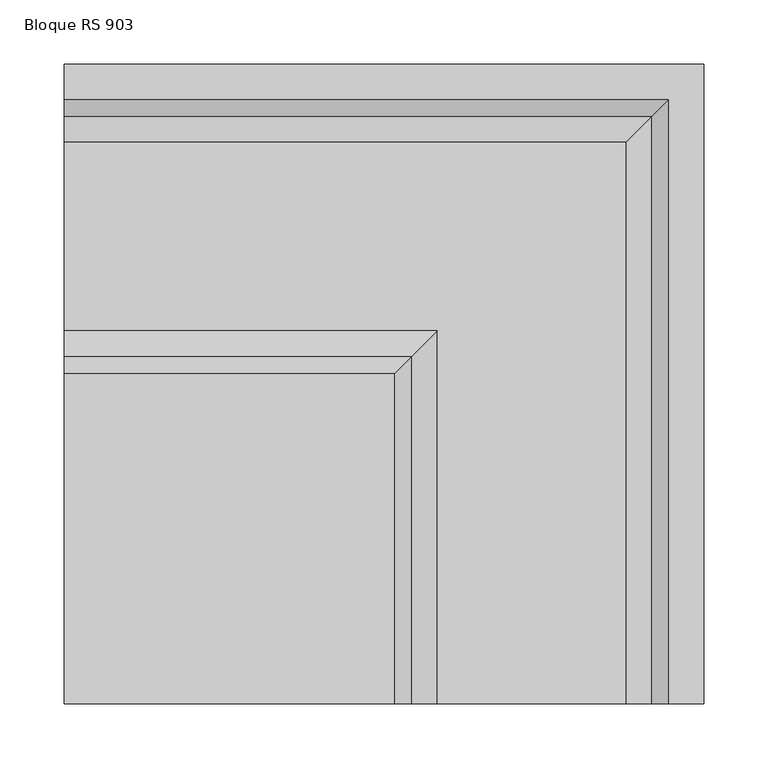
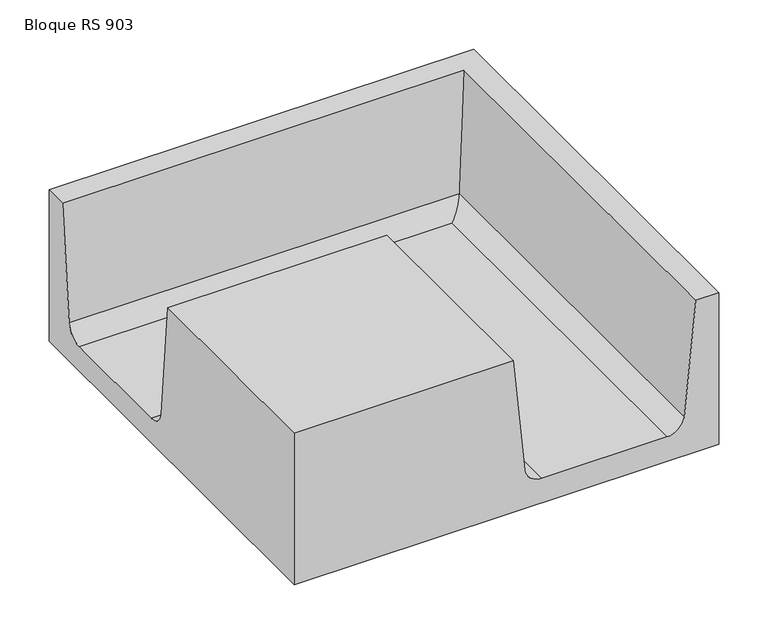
"""IFC4 building model written with IfcOpenShell, lengths in millimetres: proxy geometry, ROSA GRES_RS 903 : Bloque RS 903."""

from ifc_helpers import new_model, si_unit, frame, origin, place, context, project, spatial, polyline, circle_curve, ellipse_curve, source, transform, mapped, element, save
from ifc_brep_helpers import plane_surface, revolved_surface, advanced_brep


def bloque_rs_903_88942921(model_context):
    return source(origin(), model_context, "Body", "AdvancedBrep", [
        advanced_brep(
        [(12.8, 508.8, 188.7539108), (12.8, 508.8, 1.7539108), (12.8, 12.8, 1.7539108), (12.8, 12.8, 188.7539108), (12.8, 268.668625, 188.7539108), (12.8, 282.2046287, 49.1487962), (12.8, 302.2383735, 31.8084896), (12.8, 448.3616265, 31.8084896), (12.8, 468.3953713, 49.1487962), (12.8, 481.931375, 188.7539108), (508.8, 12.8, 188.7539108), (481.931375, 12.8, 188.7539108), (468.3953713, 12.8, 49.1487962), (448.3616265, 12.8, 31.8084896), (302.2383735, 12.8, 31.8084896), (282.2046287, 12.8, 49.1487962), (268.668625, 12.8, 188.7539108), (508.8, 12.8, 1.7539108), (508.8, 508.8, 188.7539108), (508.8, 508.8, 1.7539108), (268.668625, 268.668625, 188.7539108), (282.2046287, 282.2046287, 49.1487962), (302.2383735, 302.2383735, 31.8084896), (448.3616265, 448.3616265, 31.8084896), (468.3953713, 468.3953713, 49.1487962), (481.931375, 481.931375, 188.7539108)],
        [
            (0, 1),
            (1, 2),
            (2, 3),
            (3, 4),
            (4, 5),
            (5, 6, circle_curve(frame((12.8, 301.8469592, 51.599206), z_axis=(1.0, 0.0, 0.0), x_axis=(0.0, 1.0, 0.0)), 19.7945866)),
            (6, 7),
            (7, 8, circle_curve(frame((12.8, 448.7530408, 51.599206), z_axis=(1.0, 0.0, 0.0), x_axis=(0.0, 1.0, 0.0)), 19.7945866)),
            (8, 9),
            (9, 0),
            (10, 11),
            (11, 12),
            (12, 13, circle_curve(frame((448.7530408, 12.8, 51.599206), z_axis=(0.0, 1.0, 0.0), x_axis=(1.0, 0.0, 0.0)), 19.7945866)),
            (13, 14),
            (14, 15, circle_curve(frame((301.8469592, 12.8, 51.599206), z_axis=(0.0, 1.0, 0.0), x_axis=(1.0, 0.0, 0.0)), 19.7945866)),
            (15, 16),
            (16, 3),
            (2, 17),
            (17, 10),
            (0, 18),
            (18, 19),
            (19, 1),
            (19, 17),
            (16, 20),
            (20, 4),
            (20, 21),
            (21, 5),
            (21, 22, ellipse_curve(frame((301.8469592, 301.8469592, 51.599206), z_axis=(0.7071067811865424, -0.7071067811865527, 0.0), x_axis=(0.7071067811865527, 0.7071067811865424, 0.0)), 27.9937728, 19.7945866)),
            (22, 6),
            (22, 14),
            (13, 23),
            (23, 7),
            (23, 24, ellipse_curve(frame((448.7530408, 448.7530408, 51.599206), z_axis=(0.7071067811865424, -0.7071067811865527, 0.0), x_axis=(0.7071067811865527, 0.7071067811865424, 0.0)), 27.9937728, 19.7945866)),
            (24, 8),
            (24, 25),
            (25, 9),
            (25, 11),
            (10, 18),
            (15, 21),
            (12, 24),
        ],
        [
            plane_surface(frame((12.8, 508.8, 0.0), z_axis=(-1.0, 0.0, 0.0), x_axis=(0.0, 0.0, 1.0))),
            plane_surface(frame((508.8, 12.8, 0.0), z_axis=(0.0, -1.0, 0.0), x_axis=(0.0, 0.0, 1.0))),
            plane_surface(frame((12.8, 508.8, 188.7539108), z_axis=(0.0, 1.0, 0.0), x_axis=(1.0, 0.0, 0.0))),
            plane_surface(frame((12.8, 508.8, 1.7539108), z_axis=(0.0, 0.0, -1.0), x_axis=(1.0, 0.0, 0.0))),
            plane_surface(frame((12.8, 12.8, 188.7539108), z_axis=(0.0, 0.0, 1.0), x_axis=(1.0, 0.0, 0.0))),
            plane_surface(frame((12.8, 268.668625, 188.7539108), z_axis=(0.0, 0.9953323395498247, 0.09650665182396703), x_axis=(1.0, 0.0, 0.0))),
            revolved_surface(polyline([(321.6415457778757, 321.6415458, 51.599206), (12.8, 321.6415458, 51.599206)]), (12.8, 301.8469592, 51.599206), (1.0, 0.0, 0.0)),
            plane_surface(frame((12.8, 302.2383735, 31.8084896), z_axis=(0.0, 0.0, 1.0), x_axis=(1.0, 0.0, 0.0))),
            revolved_surface(polyline([(468.5476273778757, 468.5476274, 51.599206), (12.8, 468.5476274, 51.599206)]), (12.8, 448.7530408, 51.599206), (1.0, 0.0, 0.0)),
            plane_surface(frame((12.8, 468.3953713, 49.1487962), z_axis=(0.0, -0.9953323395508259, 0.09650665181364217), x_axis=(1.0, 0.0, 0.0))),
            plane_surface(frame((12.8, 481.931375, 188.7539108), z_axis=(0.0, 0.0, 1.0), x_axis=(1.0, 0.0, 0.0))),
            plane_surface(frame((508.8, 508.8, 188.7539108), z_axis=(1.0, 0.0, 0.0), x_axis=(0.0, -1.0, 0.0))),
            plane_surface(frame((268.668625, 268.668625, 188.7539108), z_axis=(0.9953323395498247, 0.0, 0.09650665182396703), x_axis=(0.0, -1.0, 0.0))),
            revolved_surface(polyline([(321.6415458, 12.800000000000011, 51.599206), (321.6415458, 321.6415457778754, 51.599206)]), (301.8469592, 508.8, 51.599206), (0.0, -1.0, 0.0)),
            revolved_surface(polyline([(468.5476274, 12.800000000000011, 51.599206), (468.5476274, 468.5476273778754, 51.599206)]), (448.7530408, 508.8, 51.599206), (0.0, -1.0, 0.0)),
            plane_surface(frame((468.3953713, 468.3953713, 49.1487962), z_axis=(-0.9953323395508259, 0.0, 0.09650665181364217), x_axis=(0.0, -1.0, 0.0))),
        ],
        [
            (0, [[1, 2, 3, 4, 5, 6, 7, 8, 9, 10]]),
            (1, [[11, 12, 13, 14, 15, 16, 17, -3, 18, 19]]),
            (2, [[-1, 20, 21, 22]]),
            (3, [[-2, -22, 23, -18]]),
            (4, [[-4, -17, 24, 25]]),
            (5, [[-5, -25, 26, 27]]),
            (6, [[-6, -27, 28, 29]]),
            (7, [[-7, -29, 30, -14, 31, 32]]),
            (8, [[-8, -32, 33, 34]]),
            (9, [[-9, -34, 35, 36]]),
            (10, [[-10, -36, 37, -11, 38, -20]]),
            (11, [[-21, -38, -19, -23]]),
            (12, [[-26, -24, -16, 39]]),
            (13, [[-28, -39, -15, -30]]),
            (14, [[-33, -31, -13, 40]]),
            (15, [[-35, -40, -12, -37]]),
        ],
    ),
    ])


if __name__ == "__main__":
    model = new_model("IFC4")
    model_context = context("Model", 3, world=origin())
    ifc_project = project(units=[si_unit("LENGTHUNIT", "METRE", prefix="MILLI")], contexts=[model_context])
    site = spatial("IfcSite", under=ifc_project)
    building = spatial("IfcBuilding", under=site)
    placement = place(None, origin())
    bloque_rs_903_shape = bloque_rs_903_88942921(model_context)
    element("IfcBuildingElementProxy", 1, Name="ROSA GRES_RS 903 : Bloque RS 903", ObjectType="ROSA GRES_RS 903 : Bloque RS 903", at=placement, inside=building, context=model_context, shape_type="MappedRepresentation", body=[
        mapped(bloque_rs_903_shape, transform((0.0, 0.0, 0.0), x_axis=(1.0, 0.0, 0.0), y_axis=(0.0, 1.0, 0.0), z_axis=(0.0, 0.0, 1.0))),
    ])
    save(model, "model.ifc")
